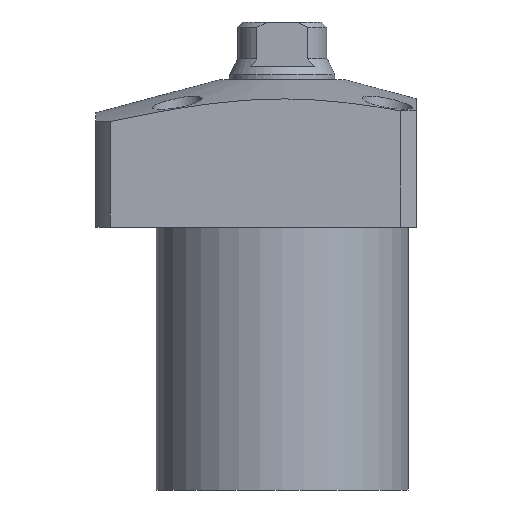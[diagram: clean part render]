
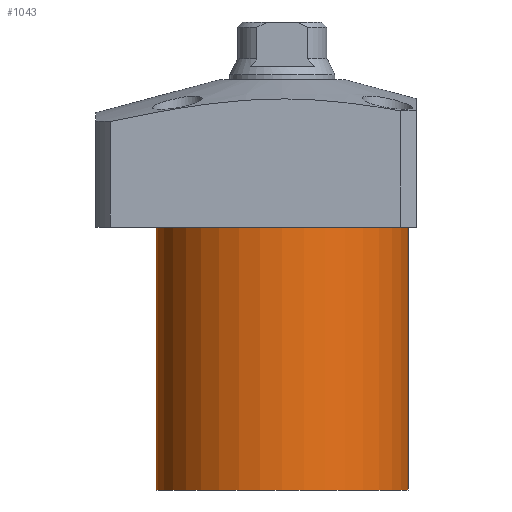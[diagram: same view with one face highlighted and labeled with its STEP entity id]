
A CAD part, front view. The second image highlights one B-rep face of the part: STEP entity #1043.
In plain terms, the highlighted cylindrical face has radius 24 mm (diameter 48 mm), a partial arc.
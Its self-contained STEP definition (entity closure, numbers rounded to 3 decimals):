
#6 = EDGE_LOOP ( 'NONE', ( #211, #1512, #226, #752 ) ) ;
#62 = LINE ( 'NONE', #839, #434 ) ;
#97 = FACE_OUTER_BOUND ( 'NONE', #6, .T. ) ;
#123 = DIRECTION ( 'NONE',  ( 0., 0., 1. ) ) ;
#174 = CIRCLE ( 'NONE', #973, 24. ) ;
#189 = EDGE_CURVE ( 'NONE', #1958, #1283, #62, .T. ) ;
#204 = CARTESIAN_POINT ( 'NONE',  ( 24., 0., -64. ) ) ;
#207 = LINE ( 'NONE', #1826, #848 ) ;
#211 = ORIENTED_EDGE ( 'NONE', *, *, #189, .F. ) ;
#226 = ORIENTED_EDGE ( 'NONE', *, *, #727, .T. ) ;
#416 = DIRECTION ( 'NONE',  ( 0., 0., -1. ) ) ;
#434 = VECTOR ( 'NONE', #2173, 1000. ) ;
#727 = EDGE_CURVE ( 'NONE', #1268, #2285, #207, .T. ) ;
#752 = ORIENTED_EDGE ( 'NONE', *, *, #1427, .T. ) ;
#805 = CARTESIAN_POINT ( 'NONE',  ( 24., 0., -14. ) ) ;
#839 = CARTESIAN_POINT ( 'NONE',  ( -24., 0., -64. ) ) ;
#848 = VECTOR ( 'NONE', #123, 1000. ) ;
#875 = CIRCLE ( 'NONE', #2347, 24. ) ;
#973 = AXIS2_PLACEMENT_3D ( 'NONE', #1550, #416, #1722 ) ;
#1038 = DIRECTION ( 'NONE',  ( 0., 0., 1. ) ) ;
#1043 = ADVANCED_FACE ( 'NONE', ( #97 ), #2335, .T. ) ;
#1225 = EDGE_CURVE ( 'NONE', #1268, #1958, #174, .T. ) ;
#1268 = VERTEX_POINT ( 'NONE', #204 ) ;
#1283 = VERTEX_POINT ( 'NONE', #1374 ) ;
#1314 = AXIS2_PLACEMENT_3D ( 'NONE', #2384, #1038, #2178 ) ;
#1374 = CARTESIAN_POINT ( 'NONE',  ( -24., 0., -14. ) ) ;
#1376 = CARTESIAN_POINT ( 'NONE',  ( 0., 0., -14. ) ) ;
#1410 = DIRECTION ( 'NONE',  ( 1., 0., 0. ) ) ;
#1412 = CARTESIAN_POINT ( 'NONE',  ( -24., 0., -64. ) ) ;
#1427 = EDGE_CURVE ( 'NONE', #2285, #1283, #875, .T. ) ;
#1512 = ORIENTED_EDGE ( 'NONE', *, *, #1225, .F. ) ;
#1550 = CARTESIAN_POINT ( 'NONE',  ( 0., 0., -64. ) ) ;
#1722 = DIRECTION ( 'NONE',  ( -1., 0., 0. ) ) ;
#1773 = DIRECTION ( 'NONE',  ( 0., 0., -1. ) ) ;
#1826 = CARTESIAN_POINT ( 'NONE',  ( 24., 0., -64. ) ) ;
#1958 = VERTEX_POINT ( 'NONE', #1412 ) ;
#2173 = DIRECTION ( 'NONE',  ( 0., 0., 1. ) ) ;
#2178 = DIRECTION ( 'NONE',  ( 1., 0., 0. ) ) ;
#2285 = VERTEX_POINT ( 'NONE', #805 ) ;
#2335 = CYLINDRICAL_SURFACE ( 'NONE', #1314, 24. ) ;
#2347 = AXIS2_PLACEMENT_3D ( 'NONE', #1376, #1773, #1410 ) ;
#2384 = CARTESIAN_POINT ( 'NONE',  ( 0., 0., -64. ) ) ;
